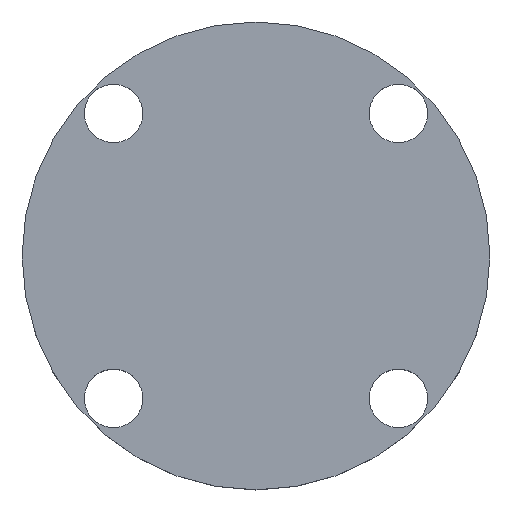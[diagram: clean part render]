
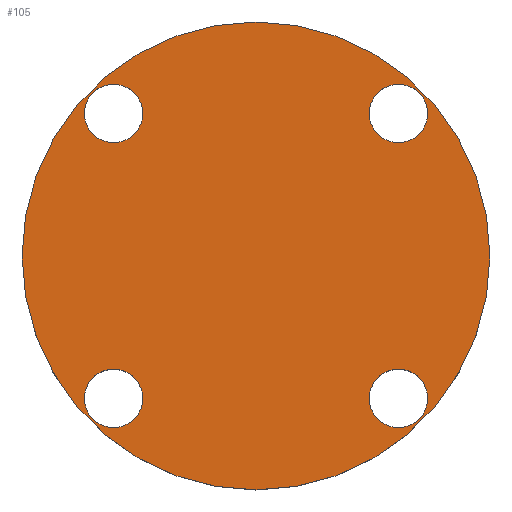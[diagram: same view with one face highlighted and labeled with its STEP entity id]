
A CAD part, top view. The second image highlights one B-rep face of the part: STEP entity #105.
In plain terms, the highlighted planar face has unit normal (0, 0, 1).
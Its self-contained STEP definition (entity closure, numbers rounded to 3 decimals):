
#21 = EDGE_CURVE('',#22,#22,#24,.T.);
#22 = VERTEX_POINT('',#23);
#23 = CARTESIAN_POINT('',(36.,0.,10.));
#24 = SURFACE_CURVE('',#25,(#30,#42),.PCURVE_S1.);
#25 = CIRCLE('',#26,36.);
#26 = AXIS2_PLACEMENT_3D('',#27,#28,#29);
#27 = CARTESIAN_POINT('',(0.,0.,10.));
#28 = DIRECTION('',(0.,0.,1.));
#29 = DIRECTION('',(1.,0.,-0.));
#30 = PCURVE('',#31,#36);
#31 = CYLINDRICAL_SURFACE('',#32,36.);
#32 = AXIS2_PLACEMENT_3D('',#33,#34,#35);
#33 = CARTESIAN_POINT('',(0.,0.,0.));
#34 = DIRECTION('',(0.,0.,1.));
#35 = DIRECTION('',(1.,0.,-0.));
#36 = DEFINITIONAL_REPRESENTATION('',(#37),#41);
#37 = LINE('',#38,#39);
#38 = CARTESIAN_POINT('',(0.,10.));
#39 = VECTOR('',#40,1.);
#40 = DIRECTION('',(1.,0.));
#41 = ( GEOMETRIC_REPRESENTATION_CONTEXT(2) 
PARAMETRIC_REPRESENTATION_CONTEXT() REPRESENTATION_CONTEXT('2D SPACE',''
  ) );
#42 = PCURVE('',#43,#48);
#43 = PLANE('',#44);
#44 = AXIS2_PLACEMENT_3D('',#45,#46,#47);
#45 = CARTESIAN_POINT('',(0.,0.,10.));
#46 = DIRECTION('',(0.,0.,1.));
#47 = DIRECTION('',(1.,0.,-0.));
#48 = DEFINITIONAL_REPRESENTATION('',(#49),#53);
#49 = CIRCLE('',#50,36.);
#50 = AXIS2_PLACEMENT_2D('',#51,#52);
#51 = CARTESIAN_POINT('',(0.,0.));
#52 = DIRECTION('',(1.,0.));
#53 = ( GEOMETRIC_REPRESENTATION_CONTEXT(2) 
PARAMETRIC_REPRESENTATION_CONTEXT() REPRESENTATION_CONTEXT('2D SPACE',''
  ) );
#105 = ADVANCED_FACE('',(#106,#109,#140,#171,#202),#43,.T.);
#106 = FACE_BOUND('',#107,.T.);
#107 = EDGE_LOOP('',(#108));
#108 = ORIENTED_EDGE('',*,*,#21,.T.);
#109 = FACE_BOUND('',#110,.T.);
#110 = EDGE_LOOP('',(#111));
#111 = ORIENTED_EDGE('',*,*,#112,.F.);
#112 = EDGE_CURVE('',#113,#113,#115,.T.);
#113 = VERTEX_POINT('',#114);
#114 = CARTESIAN_POINT('',(-17.42,-21.92,10.));
#115 = SURFACE_CURVE('',#116,(#121,#128),.PCURVE_S1.);
#116 = CIRCLE('',#117,4.5);
#117 = AXIS2_PLACEMENT_3D('',#118,#119,#120);
#118 = CARTESIAN_POINT('',(-21.92,-21.92,10.));
#119 = DIRECTION('',(0.,0.,1.));
#120 = DIRECTION('',(1.,0.,-0.));
#121 = PCURVE('',#43,#122);
#122 = DEFINITIONAL_REPRESENTATION('',(#123),#127);
#123 = CIRCLE('',#124,4.5);
#124 = AXIS2_PLACEMENT_2D('',#125,#126);
#125 = CARTESIAN_POINT('',(-21.92,-21.92));
#126 = DIRECTION('',(1.,0.));
#127 = ( GEOMETRIC_REPRESENTATION_CONTEXT(2) 
PARAMETRIC_REPRESENTATION_CONTEXT() REPRESENTATION_CONTEXT('2D SPACE',''
  ) );
#128 = PCURVE('',#129,#134);
#129 = CYLINDRICAL_SURFACE('',#130,4.5);
#130 = AXIS2_PLACEMENT_3D('',#131,#132,#133);
#131 = CARTESIAN_POINT('',(-21.92,-21.92,-15.));
#132 = DIRECTION('',(0.,0.,1.));
#133 = DIRECTION('',(1.,0.,-0.));
#134 = DEFINITIONAL_REPRESENTATION('',(#135),#139);
#135 = LINE('',#136,#137);
#136 = CARTESIAN_POINT('',(0.,25.));
#137 = VECTOR('',#138,1.);
#138 = DIRECTION('',(1.,0.));
#139 = ( GEOMETRIC_REPRESENTATION_CONTEXT(2) 
PARAMETRIC_REPRESENTATION_CONTEXT() REPRESENTATION_CONTEXT('2D SPACE',''
  ) );
#140 = FACE_BOUND('',#141,.T.);
#141 = EDGE_LOOP('',(#142));
#142 = ORIENTED_EDGE('',*,*,#143,.F.);
#143 = EDGE_CURVE('',#144,#144,#146,.T.);
#144 = VERTEX_POINT('',#145);
#145 = CARTESIAN_POINT('',(26.42,-21.92,10.));
#146 = SURFACE_CURVE('',#147,(#152,#159),.PCURVE_S1.);
#147 = CIRCLE('',#148,4.5);
#148 = AXIS2_PLACEMENT_3D('',#149,#150,#151);
#149 = CARTESIAN_POINT('',(21.92,-21.92,10.));
#150 = DIRECTION('',(0.,0.,1.));
#151 = DIRECTION('',(1.,0.,-0.));
#152 = PCURVE('',#43,#153);
#153 = DEFINITIONAL_REPRESENTATION('',(#154),#158);
#154 = CIRCLE('',#155,4.5);
#155 = AXIS2_PLACEMENT_2D('',#156,#157);
#156 = CARTESIAN_POINT('',(21.92,-21.92));
#157 = DIRECTION('',(1.,0.));
#158 = ( GEOMETRIC_REPRESENTATION_CONTEXT(2) 
PARAMETRIC_REPRESENTATION_CONTEXT() REPRESENTATION_CONTEXT('2D SPACE',''
  ) );
#159 = PCURVE('',#160,#165);
#160 = CYLINDRICAL_SURFACE('',#161,4.5);
#161 = AXIS2_PLACEMENT_3D('',#162,#163,#164);
#162 = CARTESIAN_POINT('',(21.92,-21.92,-15.));
#163 = DIRECTION('',(0.,0.,1.));
#164 = DIRECTION('',(1.,0.,-0.));
#165 = DEFINITIONAL_REPRESENTATION('',(#166),#170);
#166 = LINE('',#167,#168);
#167 = CARTESIAN_POINT('',(0.,25.));
#168 = VECTOR('',#169,1.);
#169 = DIRECTION('',(1.,0.));
#170 = ( GEOMETRIC_REPRESENTATION_CONTEXT(2) 
PARAMETRIC_REPRESENTATION_CONTEXT() REPRESENTATION_CONTEXT('2D SPACE',''
  ) );
#171 = FACE_BOUND('',#172,.T.);
#172 = EDGE_LOOP('',(#173));
#173 = ORIENTED_EDGE('',*,*,#174,.F.);
#174 = EDGE_CURVE('',#175,#175,#177,.T.);
#175 = VERTEX_POINT('',#176);
#176 = CARTESIAN_POINT('',(-17.42,21.92,10.));
#177 = SURFACE_CURVE('',#178,(#183,#190),.PCURVE_S1.);
#178 = CIRCLE('',#179,4.5);
#179 = AXIS2_PLACEMENT_3D('',#180,#181,#182);
#180 = CARTESIAN_POINT('',(-21.92,21.92,10.));
#181 = DIRECTION('',(0.,0.,1.));
#182 = DIRECTION('',(1.,0.,-0.));
#183 = PCURVE('',#43,#184);
#184 = DEFINITIONAL_REPRESENTATION('',(#185),#189);
#185 = CIRCLE('',#186,4.5);
#186 = AXIS2_PLACEMENT_2D('',#187,#188);
#187 = CARTESIAN_POINT('',(-21.92,21.92));
#188 = DIRECTION('',(1.,0.));
#189 = ( GEOMETRIC_REPRESENTATION_CONTEXT(2) 
PARAMETRIC_REPRESENTATION_CONTEXT() REPRESENTATION_CONTEXT('2D SPACE',''
  ) );
#190 = PCURVE('',#191,#196);
#191 = CYLINDRICAL_SURFACE('',#192,4.5);
#192 = AXIS2_PLACEMENT_3D('',#193,#194,#195);
#193 = CARTESIAN_POINT('',(-21.92,21.92,-15.));
#194 = DIRECTION('',(0.,0.,1.));
#195 = DIRECTION('',(1.,0.,-0.));
#196 = DEFINITIONAL_REPRESENTATION('',(#197),#201);
#197 = LINE('',#198,#199);
#198 = CARTESIAN_POINT('',(0.,25.));
#199 = VECTOR('',#200,1.);
#200 = DIRECTION('',(1.,0.));
#201 = ( GEOMETRIC_REPRESENTATION_CONTEXT(2) 
PARAMETRIC_REPRESENTATION_CONTEXT() REPRESENTATION_CONTEXT('2D SPACE',''
  ) );
#202 = FACE_BOUND('',#203,.T.);
#203 = EDGE_LOOP('',(#204));
#204 = ORIENTED_EDGE('',*,*,#205,.F.);
#205 = EDGE_CURVE('',#206,#206,#208,.T.);
#206 = VERTEX_POINT('',#207);
#207 = CARTESIAN_POINT('',(26.42,21.92,10.));
#208 = SURFACE_CURVE('',#209,(#214,#221),.PCURVE_S1.);
#209 = CIRCLE('',#210,4.5);
#210 = AXIS2_PLACEMENT_3D('',#211,#212,#213);
#211 = CARTESIAN_POINT('',(21.92,21.92,10.));
#212 = DIRECTION('',(0.,0.,1.));
#213 = DIRECTION('',(1.,0.,-0.));
#214 = PCURVE('',#43,#215);
#215 = DEFINITIONAL_REPRESENTATION('',(#216),#220);
#216 = CIRCLE('',#217,4.5);
#217 = AXIS2_PLACEMENT_2D('',#218,#219);
#218 = CARTESIAN_POINT('',(21.92,21.92));
#219 = DIRECTION('',(1.,0.));
#220 = ( GEOMETRIC_REPRESENTATION_CONTEXT(2) 
PARAMETRIC_REPRESENTATION_CONTEXT() REPRESENTATION_CONTEXT('2D SPACE',''
  ) );
#221 = PCURVE('',#222,#227);
#222 = CYLINDRICAL_SURFACE('',#223,4.5);
#223 = AXIS2_PLACEMENT_3D('',#224,#225,#226);
#224 = CARTESIAN_POINT('',(21.92,21.92,-15.));
#225 = DIRECTION('',(0.,0.,1.));
#226 = DIRECTION('',(1.,0.,-0.));
#227 = DEFINITIONAL_REPRESENTATION('',(#228),#232);
#228 = LINE('',#229,#230);
#229 = CARTESIAN_POINT('',(0.,25.));
#230 = VECTOR('',#231,1.);
#231 = DIRECTION('',(1.,0.));
#232 = ( GEOMETRIC_REPRESENTATION_CONTEXT(2) 
PARAMETRIC_REPRESENTATION_CONTEXT() REPRESENTATION_CONTEXT('2D SPACE',''
  ) );
